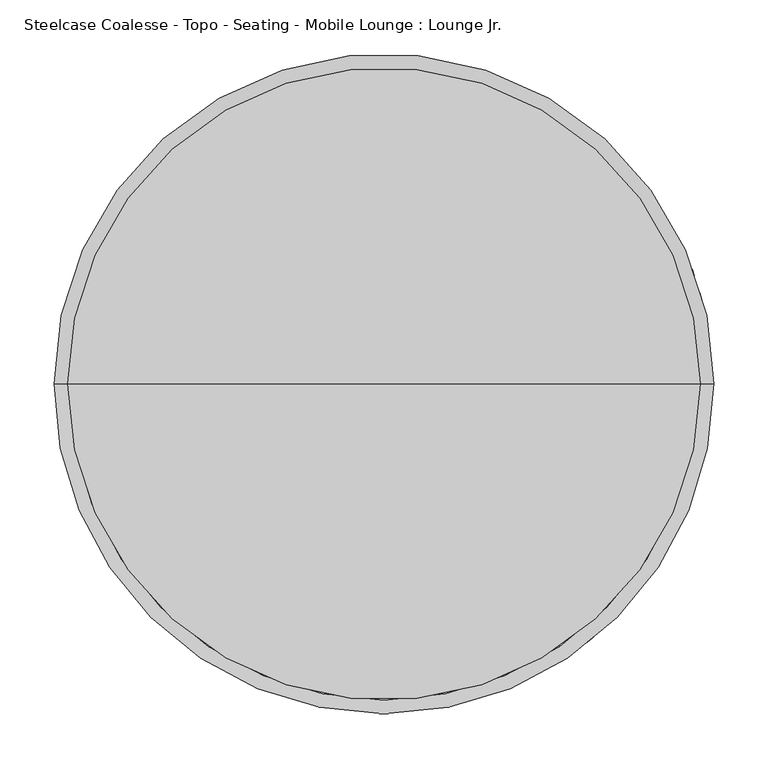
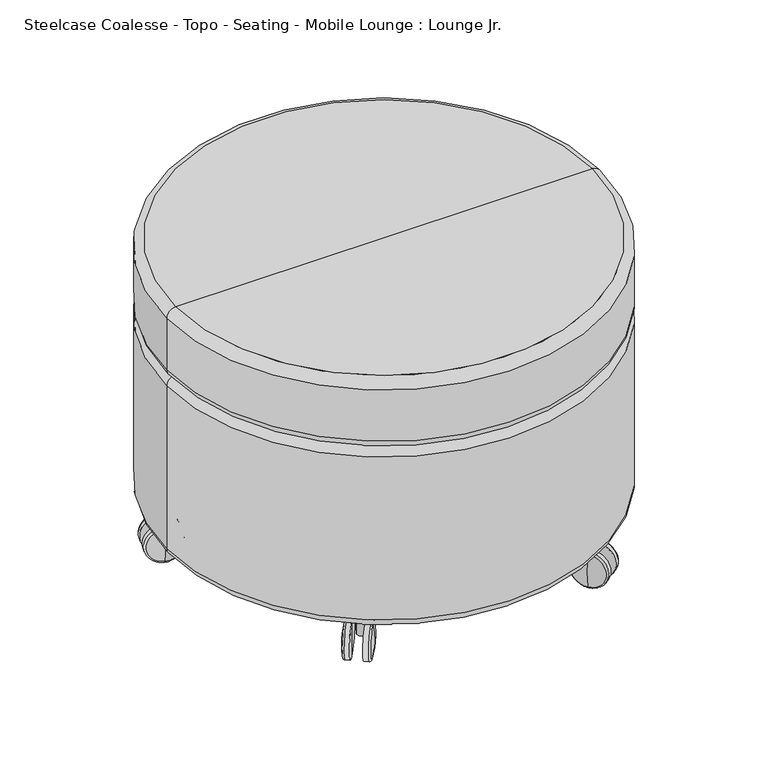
"""IFC4 building model written with IfcOpenShell, lengths in millimetres: furniture geometry, Steelcase Coalesse - Topo - Seating - Mobile Lounge : Lounge Jr.."""

from ifc_helpers import new_model, si_unit, point, frame, frame_2d, origin, place, context, project, spatial, circle_curve, ellipse_curve, trimmed, segment, composite_curve, outline, extrude, source, transform, mapped, element, save
from ifc_brep_helpers import plane_surface, cylinder_surface, revolved_surface, advanced_brep


def steelcase_coalesse_topo_seating_mobile_lounge_lounge_jr_6746f59b(model_context):
    return source(origin(), model_context, "Body", "SolidModel", [
        advanced_brep(
        [(-176.202985, -208.8690241, 2.162374), (-176.202985, -208.8690241, 49.8700604), (-177.895996, -207.5932489, 26.0162172), (-174.043401, -210.4963874, -0.0251713), (-174.043401, -210.4963874, 52.0576057), (-168.7866566, -214.4576284, -0.0251713), (-168.7866566, -214.4576284, 52.0576057), (-168.7866566, -214.4576284, 26.0162172)],
        [
            (0, 1, circle_curve(frame((-176.202985, -208.8690241, 26.0162172), z_axis=(-0.7986355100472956, 0.6018150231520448, 0.0), x_axis=(0.0, 0.0, 1.0000000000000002)), 23.8538432)),
            (1, 2, circle_curve(frame((-99.2191795, -266.8804826, 29.2824398), z_axis=(-0.6018150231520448, -0.7986355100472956, 0.0), x_axis=(0.7986355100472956, -0.6018150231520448, 0.0)), 98.5681781)),
            (2, 0, circle_curve(frame((-99.2191795, -266.8804826, 22.7499947), z_axis=(-0.6018150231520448, -0.7986355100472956, 0.0), x_axis=(0.7986355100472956, -0.6018150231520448, 0.0)), 98.5681781)),
            (1, 0, circle_curve(frame((-176.202985, -208.8690241, 26.0162172), z_axis=(-0.7986355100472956, 0.6018150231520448, 0.0), x_axis=(0.0, 0.0, 1.0000000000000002)), 23.8538432)),
            (3, 4, circle_curve(frame((-174.043401, -210.4963874, 26.0162172), z_axis=(-0.7986355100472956, 0.6018150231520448, 0.0), x_axis=(0.0, 0.0, 1.0000000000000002)), 26.0413885)),
            (4, 1, circle_curve(frame((-174.043401, -210.4963874, 49.2925273), z_axis=(-0.6018150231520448, -0.7986355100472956, 0.0), x_axis=(0.7986355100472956, -0.6018150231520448, 0.0)), 2.7650784)),
            (0, 3, circle_curve(frame((-174.043401, -210.4963874, 2.7399071), z_axis=(-0.6018150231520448, -0.7986355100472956, 0.0), x_axis=(0.7986355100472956, -0.6018150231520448, 0.0)), 2.7650784)),
            (4, 3, circle_curve(frame((-174.043401, -210.4963874, 26.0162172), z_axis=(-0.7986355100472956, 0.6018150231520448, 0.0), x_axis=(0.0, 0.0, 1.0000000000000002)), 26.0413885)),
            (5, 6, circle_curve(frame((-168.7866566, -214.4576284, 26.0162172), z_axis=(-0.7986355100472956, 0.6018150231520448, 0.0), x_axis=(0.0, 0.0, 1.0000000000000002)), 26.0413885)),
            (6, 4),
            (3, 5),
            (6, 5, circle_curve(frame((-168.7866566, -214.4576284, 26.0162172), z_axis=(-0.7986355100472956, 0.6018150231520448, 0.0), x_axis=(0.0, 0.0, 1.0000000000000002)), 26.0413885)),
            (7, 6),
            (5, 7),
        ],
        [
            revolved_surface(trimmed(ellipse_curve(frame((-99.2191795, -266.8804826, 29.2824398), z_axis=(0.6018150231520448, 0.7986355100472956, 0.0), x_axis=(0.7986355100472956, -0.6018150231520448, 0.0)), 98.5681781, 98.5681781), [point((-177.895996, -207.5932489, 26.0162172))], [point((-176.202985, -208.8690241, 49.8700604))], True, "CARTESIAN"), (-177.895996, -207.5932489, 26.0162172), (0.7986355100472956, -0.6018150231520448, 0.0)),
            revolved_surface(trimmed(ellipse_curve(frame((-174.043401, -210.4963874, 49.2925273), z_axis=(0.6018150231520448, 0.7986355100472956, 0.0), x_axis=(0.7986355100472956, -0.6018150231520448, 0.0)), 2.7650784, 2.7650784), [point((-176.202985, -208.8690241, 49.8700604))], [point((-174.043401, -210.4963874, 52.0576057))], True, "CARTESIAN"), (-177.895996, -207.5932489, 26.0162172), (0.7986355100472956, -0.6018150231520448, 0.0)),
            cylinder_surface(frame((-177.895996, -207.5932489, 26.0162172), z_axis=(0.7986355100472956, -0.6018150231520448, 0.0), x_axis=(0.0, 0.0, 1.0000000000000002)), 26.0413885),
            plane_surface(frame((-168.7866566, -214.4576284, 26.0162172), z_axis=(0.7986355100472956, -0.6018150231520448, 0.0), x_axis=(0.0, 0.0, 1.0))),
        ],
        [
            (0, [[1, 2, 3]]),
            (0, [[4, -3, -2]]),
            (1, [[5, 6, -1, 7]]),
            (1, [[8, -7, -4, -6]]),
            (2, [[9, 10, -5, 11]]),
            (2, [[12, -11, -8, -10]]),
            (3, [[13, -9, 14]]),
            (3, [[-14, -12, -13]]),
        ],
    ),
        advanced_brep(
        [(-155.6988054, -224.3200317, -0.0251713), (-155.6988054, -224.3200317, 52.0576057), (-155.6988054, -224.3200317, 26.0162172), (-150.442061, -228.2812728, -0.0251713), (-150.442061, -228.2812728, 52.0576057), (-148.282477, -229.908636, 2.162374), (-148.282477, -229.908636, 49.8700604), (-146.5894661, -231.1844113, 26.0162172)],
        [
            (0, 1, circle_curve(frame((-155.6988054, -224.3200317, 26.0162172), z_axis=(-0.7986355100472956, 0.6018150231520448, 0.0), x_axis=(0.0, 0.0, 1.0000000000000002)), 26.0413885)),
            (1, 2),
            (2, 0),
            (1, 0, circle_curve(frame((-155.6988054, -224.3200317, 26.0162172), z_axis=(-0.7986355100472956, 0.6018150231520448, 0.0), x_axis=(0.0, 0.0, 1.0000000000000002)), 26.0413885)),
            (3, 4, circle_curve(frame((-150.442061, -228.2812728, 26.0162172), z_axis=(-0.7986355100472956, 0.6018150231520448, 0.0), x_axis=(0.0, 0.0, 1.0000000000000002)), 26.0413885)),
            (4, 1),
            (0, 3),
            (4, 3, circle_curve(frame((-150.442061, -228.2812728, 26.0162172), z_axis=(-0.7986355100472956, 0.6018150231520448, 0.0), x_axis=(0.0, 0.0, 1.0000000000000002)), 26.0413885)),
            (5, 6, circle_curve(frame((-148.282477, -229.908636, 26.0162172), z_axis=(-0.7986355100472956, 0.6018150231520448, 0.0), x_axis=(0.0, 0.0, 1.0000000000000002)), 23.8538432)),
            (6, 4, circle_curve(frame((-150.442061, -228.2812728, 49.2925273), z_axis=(-0.6018150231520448, -0.7986355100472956, 0.0), x_axis=(-0.7986355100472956, 0.6018150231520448, 0.0)), 2.7650784)),
            (3, 5, circle_curve(frame((-150.442061, -228.2812728, 2.7399071), z_axis=(-0.6018150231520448, -0.7986355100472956, 0.0), x_axis=(-0.7986355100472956, 0.6018150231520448, 0.0)), 2.7650784)),
            (6, 5, circle_curve(frame((-148.282477, -229.908636, 26.0162172), z_axis=(-0.7986355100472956, 0.6018150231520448, 0.0), x_axis=(0.0, 0.0, 1.0000000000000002)), 23.8538432)),
            (7, 6, circle_curve(frame((-225.2662825, -171.8971776, 29.2824398), z_axis=(-0.6018150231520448, -0.7986355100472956, 0.0), x_axis=(-0.7986355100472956, 0.6018150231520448, 0.0)), 98.5681781)),
            (5, 7, circle_curve(frame((-225.2662825, -171.8971776, 22.7499947), z_axis=(-0.6018150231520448, -0.7986355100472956, 0.0), x_axis=(-0.7986355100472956, 0.6018150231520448, 0.0)), 98.5681781)),
        ],
        [
            plane_surface(frame((-155.6988054, -224.3200317, 26.0162172), z_axis=(-0.7986355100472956, 0.6018150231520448, 0.0), x_axis=(0.0, 0.0, 1.0))),
            cylinder_surface(frame((-177.895996, -207.5932489, 26.0162172), z_axis=(0.7986355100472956, -0.6018150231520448, 0.0), x_axis=(0.0, 0.0, 1.0000000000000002)), 26.0413885),
            revolved_surface(trimmed(ellipse_curve(frame((-150.442061, -228.2812728, 49.2925273), z_axis=(0.6018150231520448, 0.7986355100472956, 0.0), x_axis=(-0.7986355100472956, 0.6018150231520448, 0.0)), 2.7650784, 2.7650784), [point((-150.442061, -228.2812728, 52.0576057))], [point((-148.282477, -229.908636, 49.8700604))], True, "CARTESIAN"), (-177.895996, -207.5932489, 26.0162172), (0.7986355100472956, -0.6018150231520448, 0.0)),
            revolved_surface(trimmed(ellipse_curve(frame((-225.2662825, -171.8971776, 29.2824398), z_axis=(0.6018150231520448, 0.7986355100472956, 0.0), x_axis=(-0.7986355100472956, 0.6018150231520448, 0.0)), 98.5681781, 98.5681781), [point((-148.282477, -229.908636, 49.8700604))], [point((-146.5894661, -231.1844113, 26.0162172))], True, "CARTESIAN"), (-177.895996, -207.5932489, 26.0162172), (0.7986355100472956, -0.6018150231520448, 0.0)),
        ],
        [
            (0, [[1, 2, 3]]),
            (0, [[4, -3, -2]]),
            (1, [[5, 6, -1, 7]]),
            (1, [[8, -7, -4, -6]]),
            (2, [[9, 10, -5, 11]]),
            (2, [[12, -11, -8, -10]]),
            (3, [[13, -9, 14]]),
            (3, [[-14, -12, -13]]),
        ],
    ),
        advanced_brep(
        [(-255.675919, 103.8020799, 2.162374), (-255.675919, 103.8020799, 49.8700604), (-255.0208402, 105.818205, 26.0162172), (-256.5115294, 101.2303355, -0.0251713), (-256.5115294, 101.2303355, 52.0576057), (-258.5455278, 94.9703321, -0.0251713), (-258.5455278, 94.9703321, 52.0576057), (-258.5455278, 94.9703321, 26.0162172)],
        [
            (0, 1, circle_curve(frame((-255.675919, 103.8020799, 26.0162172), z_axis=(0.3090169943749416, 0.9510565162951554, 0.0), x_axis=(0.0, 0.0, 1.0)), 23.8538432)),
            (1, 2, circle_curve(frame((-285.4633551, 12.1257783, 29.2824398), z_axis=(-0.9510565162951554, 0.3090169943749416, 0.0), x_axis=(-0.3090169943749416, -0.9510565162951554, 0.0)), 98.5681781)),
            (2, 0, circle_curve(frame((-285.4633551, 12.1257783, 22.7499947), z_axis=(-0.9510565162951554, 0.3090169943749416, 0.0), x_axis=(-0.3090169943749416, -0.9510565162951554, 0.0)), 98.5681781)),
            (1, 0, circle_curve(frame((-255.675919, 103.8020799, 26.0162172), z_axis=(0.3090169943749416, 0.9510565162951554, 0.0), x_axis=(0.0, 0.0, 1.0)), 23.8538432)),
            (3, 4, circle_curve(frame((-256.5115294, 101.2303355, 26.0162172), z_axis=(0.3090169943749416, 0.9510565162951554, 0.0), x_axis=(0.0, 0.0, 1.0)), 26.0413885)),
            (4, 1, circle_curve(frame((-256.5115294, 101.2303355, 49.2925273), z_axis=(-0.9510565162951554, 0.3090169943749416, 0.0), x_axis=(-0.3090169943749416, -0.9510565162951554, 0.0)), 2.7650784)),
            (0, 3, circle_curve(frame((-256.5115294, 101.2303355, 2.7399071), z_axis=(-0.9510565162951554, 0.3090169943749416, 0.0), x_axis=(-0.3090169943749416, -0.9510565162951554, 0.0)), 2.7650784)),
            (4, 3, circle_curve(frame((-256.5115294, 101.2303355, 26.0162172), z_axis=(0.3090169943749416, 0.9510565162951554, 0.0), x_axis=(0.0, 0.0, 1.0)), 26.0413885)),
            (5, 6, circle_curve(frame((-258.5455278, 94.9703321, 26.0162172), z_axis=(0.3090169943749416, 0.9510565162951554, 0.0), x_axis=(0.0, 0.0, 1.0)), 26.0413885)),
            (6, 4),
            (3, 5),
            (6, 5, circle_curve(frame((-258.5455278, 94.9703321, 26.0162172), z_axis=(0.3090169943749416, 0.9510565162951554, 0.0), x_axis=(0.0, 0.0, 1.0)), 26.0413885)),
            (7, 6),
            (5, 7),
        ],
        [
            revolved_surface(trimmed(ellipse_curve(frame((-285.4633551, 12.1257783, 29.2824398), z_axis=(0.9510565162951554, -0.3090169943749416, 0.0), x_axis=(-0.3090169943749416, -0.9510565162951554, 0.0)), 98.5681781, 98.5681781), [point((-255.0208402, 105.818205, 26.0162172))], [point((-255.675919, 103.8020799, 49.8700604))], True, "CARTESIAN"), (-255.0208402, 105.818205, 26.0162172), (-0.3090169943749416, -0.9510565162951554, 0.0)),
            revolved_surface(trimmed(ellipse_curve(frame((-256.5115294, 101.2303355, 49.2925273), z_axis=(0.9510565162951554, -0.3090169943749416, 0.0), x_axis=(-0.3090169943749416, -0.9510565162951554, 0.0)), 2.7650784, 2.7650784), [point((-255.675919, 103.8020799, 49.8700604))], [point((-256.5115294, 101.2303355, 52.0576057))], True, "CARTESIAN"), (-255.0208402, 105.818205, 26.0162172), (-0.3090169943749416, -0.9510565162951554, 0.0)),
            cylinder_surface(frame((-255.0208402, 105.818205, 26.0162172), z_axis=(-0.3090169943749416, -0.9510565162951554, 0.0), x_axis=(0.0, 0.0, 1.0)), 26.0413885),
            plane_surface(frame((-258.5455278, 94.9703321, 26.0162172), z_axis=(-0.3090169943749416, -0.9510565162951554, 0.0), x_axis=(0.0, 0.0, 1.0))),
        ],
        [
            (0, [[1, 2, 3]]),
            (0, [[4, -3, -2]]),
            (1, [[5, 6, -1, 7]]),
            (1, [[8, -7, -4, -6]]),
            (2, [[9, 10, -5, 11]]),
            (2, [[12, -11, -8, -10]]),
            (3, [[13, -9, 14]]),
            (3, [[-14, -12, -13]]),
        ],
    ),
        advanced_brep(
        [(-263.6096258, 79.3846412, -0.0251713), (-263.6096258, 79.3846412, 52.0576057), (-263.6096258, 79.3846412, 26.0162172), (-265.6436242, 73.1246378, -0.0251713), (-265.6436242, 73.1246378, 52.0576057), (-266.4792346, 70.5528933, 2.162374), (-266.4792346, 70.5528933, 49.8700604), (-267.1343134, 68.5367682, 26.0162172)],
        [
            (0, 1, circle_curve(frame((-263.6096258, 79.3846412, 26.0162172), z_axis=(0.3090169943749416, 0.9510565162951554, 0.0), x_axis=(0.0, 0.0, 1.0)), 26.0413885)),
            (1, 2),
            (2, 0),
            (1, 0, circle_curve(frame((-263.6096258, 79.3846412, 26.0162172), z_axis=(0.3090169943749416, 0.9510565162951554, 0.0), x_axis=(0.0, 0.0, 1.0)), 26.0413885)),
            (3, 4, circle_curve(frame((-265.6436242, 73.1246378, 26.0162172), z_axis=(0.3090169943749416, 0.9510565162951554, 0.0), x_axis=(0.0, 0.0, 1.0)), 26.0413885)),
            (4, 1),
            (0, 3),
            (4, 3, circle_curve(frame((-265.6436242, 73.1246378, 26.0162172), z_axis=(0.3090169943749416, 0.9510565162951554, 0.0), x_axis=(0.0, 0.0, 1.0)), 26.0413885)),
            (5, 6, circle_curve(frame((-266.4792346, 70.5528933, 26.0162172), z_axis=(0.3090169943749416, 0.9510565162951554, 0.0), x_axis=(0.0, 0.0, 1.0)), 23.8538432)),
            (6, 4, circle_curve(frame((-265.6436242, 73.1246378, 49.2925273), z_axis=(-0.9510565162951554, 0.3090169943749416, 0.0), x_axis=(0.3090169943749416, 0.9510565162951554, 0.0)), 2.7650784)),
            (3, 5, circle_curve(frame((-265.6436242, 73.1246378, 2.7399071), z_axis=(-0.9510565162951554, 0.3090169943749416, 0.0), x_axis=(0.3090169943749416, 0.9510565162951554, 0.0)), 2.7650784)),
            (6, 5, circle_curve(frame((-266.4792346, 70.5528933, 26.0162172), z_axis=(0.3090169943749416, 0.9510565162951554, 0.0), x_axis=(0.0, 0.0, 1.0)), 23.8538432)),
            (7, 6, circle_curve(frame((-236.6917985, 162.2291949, 29.2824398), z_axis=(-0.9510565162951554, 0.3090169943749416, 0.0), x_axis=(0.3090169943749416, 0.9510565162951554, 0.0)), 98.5681781)),
            (5, 7, circle_curve(frame((-236.6917985, 162.2291949, 22.7499947), z_axis=(-0.9510565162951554, 0.3090169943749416, 0.0), x_axis=(0.3090169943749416, 0.9510565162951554, 0.0)), 98.5681781)),
        ],
        [
            plane_surface(frame((-263.6096258, 79.3846412, 26.0162172), z_axis=(0.3090169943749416, 0.9510565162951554, 0.0), x_axis=(0.0, 0.0, 1.0))),
            cylinder_surface(frame((-255.0208402, 105.818205, 26.0162172), z_axis=(-0.3090169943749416, -0.9510565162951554, 0.0), x_axis=(0.0, 0.0, 1.0)), 26.0413885),
            revolved_surface(trimmed(ellipse_curve(frame((-265.6436242, 73.1246378, 49.2925273), z_axis=(0.9510565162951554, -0.3090169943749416, 0.0), x_axis=(0.3090169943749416, 0.9510565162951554, 0.0)), 2.7650784, 2.7650784), [point((-265.6436242, 73.1246378, 52.0576057))], [point((-266.4792346, 70.5528933, 49.8700604))], True, "CARTESIAN"), (-255.0208402, 105.818205, 26.0162172), (-0.3090169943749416, -0.9510565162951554, 0.0)),
            revolved_surface(trimmed(ellipse_curve(frame((-236.6917985, 162.2291949, 29.2824398), z_axis=(0.9510565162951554, -0.3090169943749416, 0.0), x_axis=(0.3090169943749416, 0.9510565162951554, 0.0)), 98.5681781, 98.5681781), [point((-266.4792346, 70.5528933, 49.8700604))], [point((-267.1343134, 68.5367682, 26.0162172))], True, "CARTESIAN"), (-255.0208402, 105.818205, 26.0162172), (-0.3090169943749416, -0.9510565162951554, 0.0)),
        ],
        [
            (0, [[1, 2, 3]]),
            (0, [[4, -3, -2]]),
            (1, [[5, 6, -1, 7]]),
            (1, [[8, -7, -4, -6]]),
            (2, [[9, 10, -5, 11]]),
            (2, [[12, -11, -8, -10]]),
            (3, [[13, -9, 14]]),
            (3, [[-14, -12, -13]]),
        ],
    ),
        advanced_brep(
        [(172.0814737, -217.6326284, -0.0251713), (172.0814737, -217.6326284, 52.0576057), (172.0814737, -217.6326284, 26.0162172), (177.3382181, -213.6713874, -0.0251713), (177.3382181, -213.6713874, 52.0576057), (179.497802, -212.0440241, 2.162374), (179.497802, -212.0440241, 49.8700604), (181.190813, -210.7682489, 26.0162172)],
        [
            (0, 1, circle_curve(frame((172.0814737, -217.6326284, 26.0162172), z_axis=(-0.7986355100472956, -0.6018150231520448, 0.0), x_axis=(0.0, 0.0, 1.0000000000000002)), 26.0413885)),
            (1, 2),
            (2, 0),
            (1, 0, circle_curve(frame((172.0814737, -217.6326284, 26.0162172), z_axis=(-0.7986355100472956, -0.6018150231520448, 0.0), x_axis=(0.0, 0.0, 1.0000000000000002)), 26.0413885)),
            (3, 4, circle_curve(frame((177.3382181, -213.6713874, 26.0162172), z_axis=(-0.7986355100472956, -0.6018150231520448, 0.0), x_axis=(0.0, 0.0, 1.0000000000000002)), 26.0413885)),
            (4, 1),
            (0, 3),
            (4, 3, circle_curve(frame((177.3382181, -213.6713874, 26.0162172), z_axis=(-0.7986355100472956, -0.6018150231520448, 0.0), x_axis=(0.0, 0.0, 1.0000000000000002)), 26.0413885)),
            (5, 6, circle_curve(frame((179.497802, -212.0440241, 26.0162172), z_axis=(-0.7986355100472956, -0.6018150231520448, 0.0), x_axis=(0.0, 0.0, 1.0000000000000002)), 23.8538432)),
            (6, 4, circle_curve(frame((177.3382181, -213.6713874, 49.2925273), z_axis=(0.6018150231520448, -0.7986355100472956, 0.0), x_axis=(-0.7986355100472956, -0.6018150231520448, 0.0)), 2.7650784)),
            (3, 5, circle_curve(frame((177.3382181, -213.6713874, 2.7399071), z_axis=(0.6018150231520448, -0.7986355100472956, 0.0), x_axis=(-0.7986355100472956, -0.6018150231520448, 0.0)), 2.7650784)),
            (6, 5, circle_curve(frame((179.497802, -212.0440241, 26.0162172), z_axis=(-0.7986355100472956, -0.6018150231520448, 0.0), x_axis=(0.0, 0.0, 1.0000000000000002)), 23.8538432)),
            (7, 6, circle_curve(frame((102.5139966, -270.0554826, 29.2824398), z_axis=(0.6018150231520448, -0.7986355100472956, 0.0), x_axis=(-0.7986355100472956, -0.6018150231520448, 0.0)), 98.5681781)),
            (5, 7, circle_curve(frame((102.5139966, -270.0554826, 22.7499947), z_axis=(0.6018150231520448, -0.7986355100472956, 0.0), x_axis=(-0.7986355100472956, -0.6018150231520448, 0.0)), 98.5681781)),
        ],
        [
            plane_surface(frame((172.0814737, -217.6326284, 26.0162172), z_axis=(-0.7986355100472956, -0.6018150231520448, 0.0), x_axis=(0.0, 0.0, 1.0))),
            cylinder_surface(frame((181.190813, -210.7682489, 26.0162172), z_axis=(0.7986355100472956, 0.6018150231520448, 0.0), x_axis=(0.0, 0.0, 1.0000000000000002)), 26.0413885),
            revolved_surface(trimmed(ellipse_curve(frame((177.3382181, -213.6713874, 49.2925273), z_axis=(-0.6018150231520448, 0.7986355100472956, 0.0), x_axis=(-0.7986355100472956, -0.6018150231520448, 0.0)), 2.7650784, 2.7650784), [point((177.3382181, -213.6713874, 52.0576057))], [point((179.497802, -212.0440241, 49.8700604))], True, "CARTESIAN"), (181.190813, -210.7682489, 26.0162172), (0.7986355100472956, 0.6018150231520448, 0.0)),
            revolved_surface(trimmed(ellipse_curve(frame((102.5139966, -270.0554826, 29.2824398), z_axis=(-0.6018150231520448, 0.7986355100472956, 0.0), x_axis=(-0.7986355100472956, -0.6018150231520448, 0.0)), 98.5681781, 98.5681781), [point((179.497802, -212.0440241, 49.8700604))], [point((181.190813, -210.7682489, 26.0162172))], True, "CARTESIAN"), (181.190813, -210.7682489, 26.0162172), (0.7986355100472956, 0.6018150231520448, 0.0)),
        ],
        [
            (0, [[1, 2, 3]]),
            (0, [[4, -3, -2]]),
            (1, [[5, 6, -1, 7]]),
            (1, [[8, -7, -4, -6]]),
            (2, [[9, 10, -5, 11]]),
            (2, [[12, -11, -8, -10]]),
            (3, [[13, -9, 14]]),
            (3, [[-14, -12, -13]]),
        ],
    ),
        advanced_brep(
        [(151.5772941, -233.083636, 2.162374), (151.5772941, -233.083636, 49.8700604), (149.8842831, -234.3594113, 26.0162172), (153.736878, -231.4562728, -0.0251713), (153.736878, -231.4562728, 52.0576057), (158.9936224, -227.4950317, -0.0251713), (158.9936224, -227.4950317, 52.0576057), (158.9936224, -227.4950317, 26.0162172)],
        [
            (0, 1, circle_curve(frame((151.5772941, -233.083636, 26.0162172), z_axis=(-0.7986355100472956, -0.6018150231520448, 0.0), x_axis=(0.0, 0.0, 1.0000000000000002)), 23.8538432)),
            (1, 2, circle_curve(frame((228.5610996, -175.0721776, 29.2824398), z_axis=(0.6018150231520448, -0.7986355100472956, 0.0), x_axis=(0.7986355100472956, 0.6018150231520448, 0.0)), 98.5681781)),
            (2, 0, circle_curve(frame((228.5610996, -175.0721776, 22.7499947), z_axis=(0.6018150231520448, -0.7986355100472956, 0.0), x_axis=(0.7986355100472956, 0.6018150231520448, 0.0)), 98.5681781)),
            (1, 0, circle_curve(frame((151.5772941, -233.083636, 26.0162172), z_axis=(-0.7986355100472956, -0.6018150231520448, 0.0), x_axis=(0.0, 0.0, 1.0000000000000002)), 23.8538432)),
            (3, 4, circle_curve(frame((153.736878, -231.4562728, 26.0162172), z_axis=(-0.7986355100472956, -0.6018150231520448, 0.0), x_axis=(0.0, 0.0, 1.0000000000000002)), 26.0413885)),
            (4, 1, circle_curve(frame((153.736878, -231.4562728, 49.2925273), z_axis=(0.6018150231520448, -0.7986355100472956, 0.0), x_axis=(0.7986355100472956, 0.6018150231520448, 0.0)), 2.7650784)),
            (0, 3, circle_curve(frame((153.736878, -231.4562728, 2.7399071), z_axis=(0.6018150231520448, -0.7986355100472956, 0.0), x_axis=(0.7986355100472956, 0.6018150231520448, 0.0)), 2.7650784)),
            (4, 3, circle_curve(frame((153.736878, -231.4562728, 26.0162172), z_axis=(-0.7986355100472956, -0.6018150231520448, 0.0), x_axis=(0.0, 0.0, 1.0000000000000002)), 26.0413885)),
            (5, 6, circle_curve(frame((158.9936224, -227.4950317, 26.0162172), z_axis=(-0.7986355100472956, -0.6018150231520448, 0.0), x_axis=(0.0, 0.0, 1.0000000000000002)), 26.0413885)),
            (6, 4),
            (3, 5),
            (6, 5, circle_curve(frame((158.9936224, -227.4950317, 26.0162172), z_axis=(-0.7986355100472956, -0.6018150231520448, 0.0), x_axis=(0.0, 0.0, 1.0000000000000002)), 26.0413885)),
            (7, 6),
            (5, 7),
        ],
        [
            revolved_surface(trimmed(ellipse_curve(frame((228.5610996, -175.0721776, 29.2824398), z_axis=(-0.6018150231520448, 0.7986355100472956, 0.0), x_axis=(0.7986355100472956, 0.6018150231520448, 0.0)), 98.5681781, 98.5681781), [point((149.8842831, -234.3594113, 26.0162172))], [point((151.5772941, -233.083636, 49.8700604))], True, "CARTESIAN"), (181.190813, -210.7682489, 26.0162172), (0.7986355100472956, 0.6018150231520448, 0.0)),
            revolved_surface(trimmed(ellipse_curve(frame((153.736878, -231.4562728, 49.2925273), z_axis=(-0.6018150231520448, 0.7986355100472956, 0.0), x_axis=(0.7986355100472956, 0.6018150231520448, 0.0)), 2.7650784, 2.7650784), [point((151.5772941, -233.083636, 49.8700604))], [point((153.736878, -231.4562728, 52.0576057))], True, "CARTESIAN"), (181.190813, -210.7682489, 26.0162172), (0.7986355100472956, 0.6018150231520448, 0.0)),
            cylinder_surface(frame((181.190813, -210.7682489, 26.0162172), z_axis=(0.7986355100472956, 0.6018150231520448, 0.0), x_axis=(0.0, 0.0, 1.0000000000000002)), 26.0413885),
            plane_surface(frame((158.9936224, -227.4950317, 26.0162172), z_axis=(0.7986355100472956, 0.6018150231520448, 0.0), x_axis=(0.0, 0.0, 1.0))),
        ],
        [
            (0, [[1, 2, 3]]),
            (0, [[4, -3, -2]]),
            (1, [[5, 6, -1, 7]]),
            (1, [[8, -7, -4, -6]]),
            (2, [[9, 10, -5, 11]]),
            (2, [[12, -11, -8, -10]]),
            (3, [[13, -9, 14]]),
            (3, [[-14, -12, -13]]),
        ],
    ),
        advanced_brep(
        [(261.8403448, 91.7953321, -0.0251713), (261.8403448, 91.7953321, 52.0576057), (261.8403448, 91.7953321, 26.0162172), (259.8063464, 98.0553355, -0.0251713), (259.8063464, 98.0553355, 52.0576057), (258.970736, 100.6270799, 2.162374), (258.970736, 100.6270799, 49.8700604), (258.3156573, 102.643205, 26.0162172)],
        [
            (0, 1, circle_curve(frame((261.8403448, 91.7953321, 26.0162172), z_axis=(0.3090169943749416, -0.9510565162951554, 0.0), x_axis=(0.0, 0.0, 1.0)), 26.0413885)),
            (1, 2),
            (2, 0),
            (1, 0, circle_curve(frame((261.8403448, 91.7953321, 26.0162172), z_axis=(0.3090169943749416, -0.9510565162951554, 0.0), x_axis=(0.0, 0.0, 1.0)), 26.0413885)),
            (3, 4, circle_curve(frame((259.8063464, 98.0553355, 26.0162172), z_axis=(0.3090169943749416, -0.9510565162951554, 0.0), x_axis=(0.0, 0.0, 1.0)), 26.0413885)),
            (4, 1),
            (0, 3),
            (4, 3, circle_curve(frame((259.8063464, 98.0553355, 26.0162172), z_axis=(0.3090169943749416, -0.9510565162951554, 0.0), x_axis=(0.0, 0.0, 1.0)), 26.0413885)),
            (5, 6, circle_curve(frame((258.970736, 100.6270799, 26.0162172), z_axis=(0.3090169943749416, -0.9510565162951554, 0.0), x_axis=(0.0, 0.0, 1.0)), 23.8538432)),
            (6, 4, circle_curve(frame((259.8063464, 98.0553355, 49.2925273), z_axis=(0.9510565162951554, 0.3090169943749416, 0.0), x_axis=(0.3090169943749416, -0.9510565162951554, 0.0)), 2.7650784)),
            (3, 5, circle_curve(frame((259.8063464, 98.0553355, 2.7399071), z_axis=(0.9510565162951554, 0.3090169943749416, 0.0), x_axis=(0.3090169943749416, -0.9510565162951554, 0.0)), 2.7650784)),
            (6, 5, circle_curve(frame((258.970736, 100.6270799, 26.0162172), z_axis=(0.3090169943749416, -0.9510565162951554, 0.0), x_axis=(0.0, 0.0, 1.0)), 23.8538432)),
            (7, 6, circle_curve(frame((288.7581721, 8.9507783, 29.2824398), z_axis=(0.9510565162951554, 0.3090169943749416, 0.0), x_axis=(0.3090169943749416, -0.9510565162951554, 0.0)), 98.5681781)),
            (5, 7, circle_curve(frame((288.7581721, 8.9507783, 22.7499947), z_axis=(0.9510565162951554, 0.3090169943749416, 0.0), x_axis=(0.3090169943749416, -0.9510565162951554, 0.0)), 98.5681781)),
        ],
        [
            plane_surface(frame((261.8403448, 91.7953321, 26.0162172), z_axis=(0.3090169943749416, -0.9510565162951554, 0.0), x_axis=(0.0, 0.0, 1.0))),
            cylinder_surface(frame((258.3156573, 102.643205, 26.0162172), z_axis=(-0.3090169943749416, 0.9510565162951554, 0.0), x_axis=(0.0, 0.0, 1.0)), 26.0413885),
            revolved_surface(trimmed(ellipse_curve(frame((259.8063464, 98.0553355, 49.2925273), z_axis=(-0.9510565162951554, -0.3090169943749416, 0.0), x_axis=(0.3090169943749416, -0.9510565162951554, 0.0)), 2.7650784, 2.7650784), [point((259.8063464, 98.0553355, 52.0576057))], [point((258.970736, 100.6270799, 49.8700604))], True, "CARTESIAN"), (258.3156573, 102.643205, 26.0162172), (-0.3090169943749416, 0.9510565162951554, 0.0)),
            revolved_surface(trimmed(ellipse_curve(frame((288.7581721, 8.9507783, 29.2824398), z_axis=(-0.9510565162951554, -0.3090169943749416, 0.0), x_axis=(0.3090169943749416, -0.9510565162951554, 0.0)), 98.5681781, 98.5681781), [point((258.970736, 100.6270799, 49.8700604))], [point((258.3156573, 102.643205, 26.0162172))], True, "CARTESIAN"), (258.3156573, 102.643205, 26.0162172), (-0.3090169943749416, 0.9510565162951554, 0.0)),
        ],
        [
            (0, [[1, 2, 3]]),
            (0, [[4, -3, -2]]),
            (1, [[5, 6, -1, 7]]),
            (1, [[8, -7, -4, -6]]),
            (2, [[9, 10, -5, 11]]),
            (2, [[12, -11, -8, -10]]),
            (3, [[13, -9, 14]]),
            (3, [[-14, -12, -13]]),
        ],
    ),
        advanced_brep(
        [(269.7740516, 67.3778933, 2.162374), (269.7740516, 67.3778933, 49.8700604), (270.4291304, 65.3617682, 26.0162172), (268.9384412, 69.9496378, -0.0251713), (268.9384412, 69.9496378, 52.0576057), (266.9044428, 76.2096412, -0.0251713), (266.9044428, 76.2096412, 52.0576057), (266.9044428, 76.2096412, 26.0162172)],
        [
            (0, 1, circle_curve(frame((269.7740516, 67.3778933, 26.0162172), z_axis=(0.3090169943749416, -0.9510565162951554, 0.0), x_axis=(0.0, 0.0, 1.0)), 23.8538432)),
            (1, 2, circle_curve(frame((239.9866156, 159.0541949, 29.2824398), z_axis=(0.9510565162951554, 0.3090169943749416, 0.0), x_axis=(-0.3090169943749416, 0.9510565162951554, 0.0)), 98.5681781)),
            (2, 0, circle_curve(frame((239.9866156, 159.0541949, 22.7499947), z_axis=(0.9510565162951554, 0.3090169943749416, 0.0), x_axis=(-0.3090169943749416, 0.9510565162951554, 0.0)), 98.5681781)),
            (1, 0, circle_curve(frame((269.7740516, 67.3778933, 26.0162172), z_axis=(0.3090169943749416, -0.9510565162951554, 0.0), x_axis=(0.0, 0.0, 1.0)), 23.8538432)),
            (3, 4, circle_curve(frame((268.9384412, 69.9496378, 26.0162172), z_axis=(0.3090169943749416, -0.9510565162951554, 0.0), x_axis=(0.0, 0.0, 1.0)), 26.0413885)),
            (4, 1, circle_curve(frame((268.9384412, 69.9496378, 49.2925273), z_axis=(0.9510565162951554, 0.3090169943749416, 0.0), x_axis=(-0.3090169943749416, 0.9510565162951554, 0.0)), 2.7650784)),
            (0, 3, circle_curve(frame((268.9384412, 69.9496378, 2.7399071), z_axis=(0.9510565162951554, 0.3090169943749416, 0.0), x_axis=(-0.3090169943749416, 0.9510565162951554, 0.0)), 2.7650784)),
            (4, 3, circle_curve(frame((268.9384412, 69.9496378, 26.0162172), z_axis=(0.3090169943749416, -0.9510565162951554, 0.0), x_axis=(0.0, 0.0, 1.0)), 26.0413885)),
            (5, 6, circle_curve(frame((266.9044428, 76.2096412, 26.0162172), z_axis=(0.3090169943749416, -0.9510565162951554, 0.0), x_axis=(0.0, 0.0, 1.0)), 26.0413885)),
            (6, 4),
            (3, 5),
            (6, 5, circle_curve(frame((266.9044428, 76.2096412, 26.0162172), z_axis=(0.3090169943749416, -0.9510565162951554, 0.0), x_axis=(0.0, 0.0, 1.0)), 26.0413885)),
            (7, 6),
            (5, 7),
        ],
        [
            revolved_surface(trimmed(ellipse_curve(frame((239.9866156, 159.0541949, 29.2824398), z_axis=(-0.9510565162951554, -0.3090169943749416, 0.0), x_axis=(-0.3090169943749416, 0.9510565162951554, 0.0)), 98.5681781, 98.5681781), [point((270.4291304, 65.3617682, 26.0162172))], [point((269.7740516, 67.3778933, 49.8700604))], True, "CARTESIAN"), (258.3156573, 102.643205, 26.0162172), (-0.3090169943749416, 0.9510565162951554, 0.0)),
            revolved_surface(trimmed(ellipse_curve(frame((268.9384412, 69.9496378, 49.2925273), z_axis=(-0.9510565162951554, -0.3090169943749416, 0.0), x_axis=(-0.3090169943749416, 0.9510565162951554, 0.0)), 2.7650784, 2.7650784), [point((269.7740516, 67.3778933, 49.8700604))], [point((268.9384412, 69.9496378, 52.0576057))], True, "CARTESIAN"), (258.3156573, 102.643205, 26.0162172), (-0.3090169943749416, 0.9510565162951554, 0.0)),
            cylinder_surface(frame((258.3156573, 102.643205, 26.0162172), z_axis=(-0.3090169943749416, 0.9510565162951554, 0.0), x_axis=(0.0, 0.0, 1.0)), 26.0413885),
            plane_surface(frame((266.9044428, 76.2096412, 26.0162172), z_axis=(-0.3090169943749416, 0.9510565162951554, 0.0), x_axis=(0.0, 0.0, 1.0))),
        ],
        [
            (0, [[1, 2, 3]]),
            (0, [[4, -3, -2]]),
            (1, [[5, 6, -1, 7]]),
            (1, [[8, -7, -4, -6]]),
            (2, [[9, 10, -5, 11]]),
            (2, [[12, -11, -8, -10]]),
            (3, [[13, -9, 14]]),
            (3, [[-14, -12, -13]]),
        ],
    ),
        advanced_brep(
        [(-6.3480366, 277.3343074, -0.0251713), (-6.3480366, 277.3343074, 52.0576057), (-6.3480366, 277.3343074, 26.0162172), (-12.9301937, 277.3343074, -0.0251713), (-12.9301937, 277.3343074, 52.0576057), (-15.6342858, 277.3343074, 2.162374), (-15.6342858, 277.3343074, 49.8700604), (-17.7541652, 277.3343074, 26.0162172)],
        [
            (0, 1, circle_curve(frame((-6.3480366, 277.3343074, 26.0162172), z_axis=(1.0, 0.0, 0.0), x_axis=(0.0, 0.0, 1.0)), 26.0413885)),
            (1, 2),
            (2, 0),
            (1, 0, circle_curve(frame((-6.3480366, 277.3343074, 26.0162172), z_axis=(1.0, 0.0, 0.0), x_axis=(0.0, 0.0, 1.0)), 26.0413885)),
            (3, 4, circle_curve(frame((-12.9301937, 277.3343074, 26.0162172), z_axis=(1.0, 0.0, 0.0), x_axis=(0.0, 0.0, 1.0)), 26.0413885)),
            (4, 1),
            (0, 3),
            (4, 3, circle_curve(frame((-12.9301937, 277.3343074, 26.0162172), z_axis=(1.0, 0.0, 0.0), x_axis=(0.0, 0.0, 1.0)), 26.0413885)),
            (5, 6, circle_curve(frame((-15.6342858, 277.3343074, 26.0162172), z_axis=(1.0, 0.0, 0.0), x_axis=(0.0, 0.0, 1.0)), 23.8538432)),
            (6, 4, circle_curve(frame((-12.9301937, 277.3343074, 49.2925273), z_axis=(0.0, 1.0, 0.0), x_axis=(1.0, 0.0, 0.0)), 2.7650784)),
            (3, 5, circle_curve(frame((-12.9301937, 277.3343074, 2.7399071), z_axis=(0.0, 1.0, 0.0), x_axis=(1.0, 0.0, 0.0)), 2.7650784)),
            (6, 5, circle_curve(frame((-15.6342858, 277.3343074, 26.0162172), z_axis=(1.0, 0.0, 0.0), x_axis=(0.0, 0.0, 1.0)), 23.8538432)),
            (7, 6, circle_curve(frame((80.7598822, 277.3343074, 29.2824398), z_axis=(0.0, 1.0, 0.0), x_axis=(1.0, 0.0, 0.0)), 98.5681781)),
            (5, 7, circle_curve(frame((80.7598822, 277.3343074, 22.7499947), z_axis=(0.0, 1.0, 0.0), x_axis=(1.0, 0.0, 0.0)), 98.5681781)),
        ],
        [
            plane_surface(frame((-6.3480366, 277.3343074, 26.0162172), z_axis=(1.0, 0.0, 0.0), x_axis=(0.0, 0.0, 1.0))),
            cylinder_surface(frame((-17.7541652, 277.3343074, 26.0162172), z_axis=(-1.0, 0.0, 0.0), x_axis=(0.0, 0.0, 1.0)), 26.0413885),
            revolved_surface(trimmed(ellipse_curve(frame((-12.9301937, 277.3343074, 49.2925273), z_axis=(0.0, -1.0, 0.0), x_axis=(1.0, 0.0, 0.0)), 2.7650784, 2.7650784), [point((-12.9301937, 277.3343074, 52.0576057))], [point((-15.6342858, 277.3343074, 49.8700604))], True, "CARTESIAN"), (-17.7541652, 277.3343074, 26.0162172), (-1.0, 0.0, 0.0)),
            revolved_surface(trimmed(ellipse_curve(frame((80.7598822, 277.3343074, 29.2824398), z_axis=(0.0, -1.0, 0.0), x_axis=(1.0, 0.0, 0.0)), 98.5681781, 98.5681781), [point((-15.6342858, 277.3343074, 49.8700604))], [point((-17.7541652, 277.3343074, 26.0162172))], True, "CARTESIAN"), (-17.7541652, 277.3343074, 26.0162172), (-1.0, 0.0, 0.0)),
        ],
        [
            (0, [[1, 2, 3]]),
            (0, [[4, -3, -2]]),
            (1, [[5, 6, -1, 7]]),
            (1, [[8, -7, -4, -6]]),
            (2, [[9, 10, -5, 11]]),
            (2, [[12, -11, -8, -10]]),
            (3, [[13, -9, 14]]),
            (3, [[-14, -12, -13]]),
        ],
    ),
        advanced_brep(
        [(19.3259778, 277.3343074, 2.162374), (19.3259778, 277.3343074, 49.8700604), (21.4458573, 277.3343074, 26.0162172), (16.6218857, 277.3343074, -0.0251713), (16.6218857, 277.3343074, 52.0576057), (10.0397286, 277.3343074, -0.0251713), (10.0397286, 277.3343074, 52.0576057), (10.0397286, 277.3343074, 26.0162172)],
        [
            (0, 1, circle_curve(frame((19.3259778, 277.3343074, 26.0162172), z_axis=(1.0, 0.0, 0.0), x_axis=(0.0, 0.0, 1.0)), 23.8538432)),
            (1, 2, circle_curve(frame((-77.0681901, 277.3343074, 29.2824398), z_axis=(0.0, 1.0, 0.0), x_axis=(-1.0, 0.0, 0.0)), 98.5681781)),
            (2, 0, circle_curve(frame((-77.0681901, 277.3343074, 22.7499947), z_axis=(0.0, 1.0, 0.0), x_axis=(-1.0, 0.0, 0.0)), 98.5681781)),
            (1, 0, circle_curve(frame((19.3259778, 277.3343074, 26.0162172), z_axis=(1.0, 0.0, 0.0), x_axis=(0.0, 0.0, 1.0)), 23.8538432)),
            (3, 4, circle_curve(frame((16.6218857, 277.3343074, 26.0162172), z_axis=(1.0, 0.0, 0.0), x_axis=(0.0, 0.0, 1.0)), 26.0413885)),
            (4, 1, circle_curve(frame((16.6218857, 277.3343074, 49.2925273), z_axis=(0.0, 1.0, 0.0), x_axis=(-1.0, 0.0, 0.0)), 2.7650784)),
            (0, 3, circle_curve(frame((16.6218857, 277.3343074, 2.7399071), z_axis=(0.0, 1.0, 0.0), x_axis=(-1.0, 0.0, 0.0)), 2.7650784)),
            (4, 3, circle_curve(frame((16.6218857, 277.3343074, 26.0162172), z_axis=(1.0, 0.0, 0.0), x_axis=(0.0, 0.0, 1.0)), 26.0413885)),
            (5, 6, circle_curve(frame((10.0397286, 277.3343074, 26.0162172), z_axis=(1.0, 0.0, 0.0), x_axis=(0.0, 0.0, 1.0)), 26.0413885)),
            (6, 4),
            (3, 5),
            (6, 5, circle_curve(frame((10.0397286, 277.3343074, 26.0162172), z_axis=(1.0, 0.0, 0.0), x_axis=(0.0, 0.0, 1.0)), 26.0413885)),
            (7, 6),
            (5, 7),
        ],
        [
            revolved_surface(trimmed(ellipse_curve(frame((-77.0681901, 277.3343074, 29.2824398), z_axis=(0.0, -1.0, 0.0), x_axis=(-1.0, 0.0, 0.0)), 98.5681781, 98.5681781), [point((21.4458573, 277.3343074, 26.0162172))], [point((19.3259778, 277.3343074, 49.8700604))], True, "CARTESIAN"), (-17.7541652, 277.3343074, 26.0162172), (-1.0, 0.0, 0.0)),
            revolved_surface(trimmed(ellipse_curve(frame((16.6218857, 277.3343074, 49.2925273), z_axis=(0.0, -1.0, 0.0), x_axis=(-1.0, 0.0, 0.0)), 2.7650784, 2.7650784), [point((19.3259778, 277.3343074, 49.8700604))], [point((16.6218857, 277.3343074, 52.0576057))], True, "CARTESIAN"), (-17.7541652, 277.3343074, 26.0162172), (-1.0, 0.0, 0.0)),
            cylinder_surface(frame((-17.7541652, 277.3343074, 26.0162172), z_axis=(-1.0, 0.0, 0.0), x_axis=(0.0, 0.0, 1.0)), 26.0413885),
            plane_surface(frame((10.0397286, 277.3343074, 26.0162172), z_axis=(-1.0, 0.0, 0.0), x_axis=(0.0, 0.0, 1.0))),
        ],
        [
            (0, [[1, 2, 3]]),
            (0, [[4, -3, -2]]),
            (1, [[5, 6, -1, 7]]),
            (1, [[8, -7, -4, -6]]),
            (2, [[9, 10, -5, 11]]),
            (2, [[12, -11, -8, -10]]),
            (3, [[13, -9, 14]]),
            (3, [[-14, -12, -13]]),
        ],
    ),
        extrude(outline(composite_curve([segment(trimmed(circle_curve(frame_2d((-246.9637162, 81.6111072)), 6.820827), [point((-253.7845432, 81.6111072))], [point((-240.1428893, 81.6111072))], False, "CARTESIAN"), True, "CONTINUOUS"), segment(trimmed(circle_curve(frame_2d((-246.9637162, 81.6111072)), 6.820827), [point((-240.1428893, 81.6111072))], [point((-253.7845432, 81.6111072))], False, "CARTESIAN"), True, "CONTINUOUS")], self_intersect=False)), frame((0.0, 0.0, 27.0640317), z_axis=(0.0, 0.0, 1.0), x_axis=(1.0, 0.0, 0.0)), (0.0, 0.0, 1.0), 38.8103722),
        extrude(outline(composite_curve([segment(trimmed(circle_curve(frame_2d((-152.7297516, -210.4241015)), 6.7051572), [point((-159.4349088, -210.4241015))], [point((-146.0245944, -210.4241015))], False, "CARTESIAN"), True, "CONTINUOUS"), segment(trimmed(circle_curve(frame_2d((-152.7297516, -210.4241015)), 6.7051572), [point((-146.0245944, -210.4241015))], [point((-159.4349088, -210.4241015))], False, "CARTESIAN"), True, "CONTINUOUS")], self_intersect=False)), frame((0.0, 0.0, 27.0640317), z_axis=(0.0, 0.0, 1.0), x_axis=(1.0, 0.0, 0.0)), (0.0, 0.0, 1.0), 38.8103722),
        extrude(outline(composite_curve([segment(trimmed(circle_curve(frame_2d((154.132132, -211.0461111)), 6.6589574), [point((147.4731746, -211.0461111))], [point((160.7910894, -211.0461111))], False, "CARTESIAN"), True, "CONTINUOUS"), segment(trimmed(circle_curve(frame_2d((154.132132, -211.0461111)), 6.6589574), [point((160.7910894, -211.0461111))], [point((147.4731746, -211.0461111))], False, "CARTESIAN"), True, "CONTINUOUS")], self_intersect=False)), frame((0.0, 0.0, 27.0640317), z_axis=(0.0, 0.0, 1.0), x_axis=(1.0, 0.0, 0.0)), (0.0, 0.0, 1.0), 38.8103722),
        extrude(outline(composite_curve([segment(trimmed(circle_curve(frame_2d((249.5492548, 80.6046643)), 6.6781588), [point((242.871096, 80.6046643))], [point((256.2274135, 80.6046643))], False, "CARTESIAN"), True, "CONTINUOUS"), segment(trimmed(circle_curve(frame_2d((249.5492548, 80.6046643)), 6.6781588), [point((256.2274135, 80.6046643))], [point((242.871096, 80.6046643))], False, "CARTESIAN"), True, "CONTINUOUS")], self_intersect=False)), frame((0.0, 0.0, 27.0640317), z_axis=(0.0, 0.0, 1.0), x_axis=(1.0, 0.0, 0.0)), (0.0, 0.0, 1.0), 38.8103722),
        extrude(outline(composite_curve([segment(trimmed(circle_curve(frame_2d((1.6583751, 261.4767999)), 6.7849569), [point((-5.1265818, 261.4767999))], [point((8.443332, 261.4767999))], False, "CARTESIAN"), True, "CONTINUOUS"), segment(trimmed(circle_curve(frame_2d((1.6583751, 261.4767999)), 6.7849569), [point((8.443332, 261.4767999))], [point((-5.1265818, 261.4767999))], False, "CARTESIAN"), True, "CONTINUOUS")], self_intersect=False)), frame((0.0, 0.0, 27.0640317), z_axis=(0.0, 0.0, 1.0), x_axis=(1.0, 0.0, 0.0)), (0.0, 0.0, 1.0), 38.8103722),
        advanced_brep(
        [(291.8990454, 0.0, 431.8), (-291.8990454, 0.0, 431.8), (0.0, 0.0, 431.8), (304.5990454, 0.0, 419.1), (-304.5990454, 0.0, 419.1), (304.5990454, 0.0, 342.9), (-304.5990454, 0.0, 342.9), (291.8990454, 0.0, 330.2), (-291.8990454, 0.0, 330.2), (304.5990454, 0.0, 319.4540908), (-304.5990454, 0.0, 319.4540908), (304.5990454, 0.0, 77.9186134), (-304.5990454, 0.0, 77.9186134), (291.8990454, 0.0, 65.2186134), (-291.8990454, 0.0, 65.2186134), (0.0, 0.0, 65.2186134)],
        [
            (0, 1, circle_curve(frame((0.0, 0.0, 431.8), z_axis=(0.0, 0.0, 1.0), x_axis=(-1.0, 0.0, 0.0)), 291.8990454)),
            (1, 2),
            (2, 0),
            (1, 0, circle_curve(frame((0.0, 0.0, 431.8), z_axis=(0.0, 0.0, 1.0), x_axis=(-1.0, 0.0, 0.0)), 291.8990454)),
            (3, 4, circle_curve(frame((0.0, 0.0, 419.1), z_axis=(0.0, 0.0, 1.0), x_axis=(-1.0, 0.0, 0.0)), 304.5990454)),
            (4, 1, circle_curve(frame((-291.8990454, 0.0, 419.1), z_axis=(0.0, 1.0, 0.0), x_axis=(1.0, 0.0, 0.0)), 12.7)),
            (0, 3, circle_curve(frame((291.8990454, 0.0, 419.1), z_axis=(0.0, 1.0, 0.0), x_axis=(-1.0, 0.0, 0.0)), 12.7)),
            (4, 3, circle_curve(frame((0.0, 0.0, 419.1), z_axis=(0.0, 0.0, 1.0), x_axis=(-1.0, 0.0, 0.0)), 304.5990454)),
            (5, 6, circle_curve(frame((0.0, 0.0, 342.9), z_axis=(0.0, 0.0, 1.0), x_axis=(-1.0, 0.0, 0.0)), 304.5990454)),
            (6, 4),
            (3, 5),
            (6, 5, circle_curve(frame((0.0, 0.0, 342.9), z_axis=(0.0, 0.0, 1.0), x_axis=(-1.0, 0.0, 0.0)), 304.5990454)),
            (7, 8, circle_curve(frame((0.0, 0.0, 330.2), z_axis=(0.0, 0.0, 1.0), x_axis=(-1.0, 0.0, 0.0)), 291.8990454)),
            (8, 6, circle_curve(frame((-291.8990454, 0.0, 342.9), z_axis=(0.0, 1.0, 0.0), x_axis=(1.0, 0.0, 0.0)), 12.7)),
            (5, 7, circle_curve(frame((291.8990454, 0.0, 342.9), z_axis=(0.0, 1.0, 0.0), x_axis=(-1.0, 0.0, 0.0)), 12.7)),
            (8, 7, circle_curve(frame((0.0, 0.0, 330.2), z_axis=(0.0, 0.0, 1.0), x_axis=(-1.0, 0.0, 0.0)), 291.8990454)),
            (9, 10, circle_curve(frame((0.0, 0.0, 319.4540908), z_axis=(0.0, 0.0, 1.0), x_axis=(-1.0, 0.0, 0.0)), 304.5990454)),
            (10, 8, circle_curve(frame((-293.7028027, 0.0, 319.4540908), z_axis=(0.0, 1.0, 0.0), x_axis=(1.0, 0.0, 0.0)), 10.8962427)),
            (7, 9, circle_curve(frame((293.7028027, 0.0, 319.4540908), z_axis=(0.0, 1.0, 0.0), x_axis=(-1.0, 0.0, 0.0)), 10.8962427)),
            (10, 9, circle_curve(frame((0.0, 0.0, 319.4540908), z_axis=(0.0, 0.0, 1.0), x_axis=(-1.0, 0.0, 0.0)), 304.5990454)),
            (11, 12, circle_curve(frame((0.0, 0.0, 77.9186134), z_axis=(0.0, 0.0, 1.0), x_axis=(-1.0, 0.0, 0.0)), 304.5990454)),
            (12, 10),
            (9, 11),
            (12, 11, circle_curve(frame((0.0, 0.0, 77.9186134), z_axis=(0.0, 0.0, 1.0), x_axis=(-1.0, 0.0, 0.0)), 304.5990454)),
            (13, 14, circle_curve(frame((0.0, 0.0, 65.2186134), z_axis=(0.0, 0.0, 1.0), x_axis=(-1.0, 0.0, 0.0)), 291.8990454)),
            (14, 12, circle_curve(frame((-291.8990454, 0.0, 77.9186134), z_axis=(0.0, 1.0, 0.0), x_axis=(1.0, 0.0, 0.0)), 12.7)),
            (11, 13, circle_curve(frame((291.8990454, 0.0, 77.9186134), z_axis=(0.0, 1.0, 0.0), x_axis=(-1.0, 0.0, 0.0)), 12.7)),
            (14, 13, circle_curve(frame((0.0, 0.0, 65.2186134), z_axis=(0.0, 0.0, 1.0), x_axis=(-1.0, 0.0, 0.0)), 291.8990454)),
            (15, 14),
            (13, 15),
        ],
        [
            plane_surface(frame((0.0, 0.0, 431.8), z_axis=(0.0, 0.0, 1.0), x_axis=(-1.0, 0.0, 0.0))),
            revolved_surface(trimmed(ellipse_curve(frame((-291.8990454, 0.0, 419.1), z_axis=(0.0, -1.0, 0.0), x_axis=(1.0, 0.0, 0.0)), 12.7, 12.7), [point((-291.8990454, 0.0, 431.8))], [point((-304.5990454, 0.0, 419.1))], True, "CARTESIAN"), (0.0, 0.0, 157.3958569), (0.0, 0.0, -1.0)),
            cylinder_surface(frame((0.0, 0.0, 157.3958569), z_axis=(0.0, 0.0, -1.0), x_axis=(-1.0, 0.0, 0.0)), 304.5990454),
            revolved_surface(trimmed(ellipse_curve(frame((-291.8990454, 0.0, 342.9), z_axis=(0.0, -1.0, 0.0), x_axis=(1.0, 0.0, 0.0)), 12.7, 12.7), [point((-304.5990454, 0.0, 342.9))], [point((-291.8990454, 0.0, 330.2))], True, "CARTESIAN"), (0.0, 0.0, 157.3958569), (0.0, 0.0, -1.0)),
            revolved_surface(trimmed(ellipse_curve(frame((-293.7028027, 0.0, 319.4540908), z_axis=(0.0, -1.0, 0.0), x_axis=(1.0, 0.0, 0.0)), 10.8962427, 10.8962427), [point((-291.8990454, 0.0, 330.2))], [point((-304.5990454, 0.0, 319.4540908))], True, "CARTESIAN"), (0.0, 0.0, 157.3958569), (0.0, 0.0, -1.0)),
            revolved_surface(trimmed(ellipse_curve(frame((-291.8990454, 0.0, 77.9186134), z_axis=(0.0, -1.0, 0.0), x_axis=(1.0, 0.0, 0.0)), 12.7, 12.7), [point((-304.5990454, 0.0, 77.9186134))], [point((-291.8990454, 0.0, 65.2186134))], True, "CARTESIAN"), (0.0, 0.0, 157.3958569), (0.0, 0.0, -1.0)),
            plane_surface(frame((0.0, 0.0, 65.2186134), z_axis=(0.0, 0.0, -1.0), x_axis=(-1.0, 0.0, 0.0))),
        ],
        [
            (0, [[1, 2, 3]]),
            (0, [[4, -3, -2]]),
            (1, [[5, 6, -1, 7]]),
            (1, [[8, -7, -4, -6]]),
            (2, [[9, 10, -5, 11]]),
            (2, [[12, -11, -8, -10]]),
            (3, [[13, 14, -9, 15]]),
            (3, [[16, -15, -12, -14]]),
            (4, [[17, 18, -13, 19]]),
            (4, [[20, -19, -16, -18]]),
            (2, [[21, 22, -17, 23]]),
            (2, [[24, -23, -20, -22]]),
            (5, [[25, 26, -21, 27]]),
            (5, [[28, -27, -24, -26]]),
            (6, [[29, -25, 30]]),
            (6, [[-30, -28, -29]]),
        ],
    ),
    ])


if __name__ == "__main__":
    model = new_model("IFC4")
    model_context = context("Model", 3, world=origin())
    ifc_project = project(units=[si_unit("LENGTHUNIT", "METRE", prefix="MILLI")], contexts=[model_context])
    site = spatial("IfcSite", under=ifc_project)
    building = spatial("IfcBuilding", under=site)
    placement = place(None, origin())
    steelcase_coalesse_topo_seating_mobile_lounge_lounge_jr_shape = steelcase_coalesse_topo_seating_mobile_lounge_lounge_jr_6746f59b(model_context)
    element("IfcFurniture", 1, ObjectType="Steelcase Coalesse - Topo - Seating - Mobile Lounge : Lounge Jr.", at=placement, inside=building, context=model_context, shape_type="MappedRepresentation", body=[
        mapped(steelcase_coalesse_topo_seating_mobile_lounge_lounge_jr_shape, transform((0.0, 0.0, 0.0), x_axis=(1.0, 0.0, 0.0), y_axis=(0.0, 1.0, 0.0), z_axis=(0.0, 0.0, 1.0))),
    ])
    save(model, "model.ifc")
